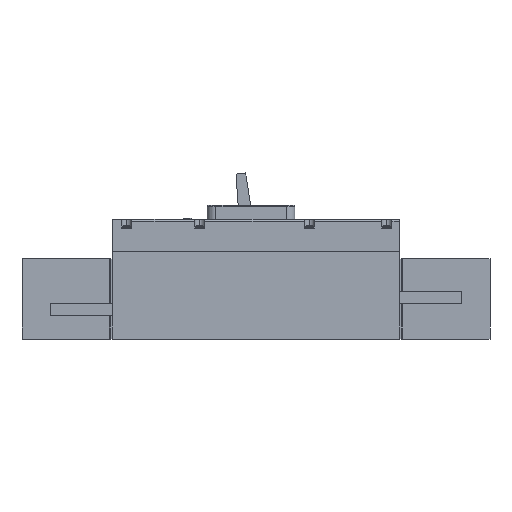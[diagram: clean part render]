
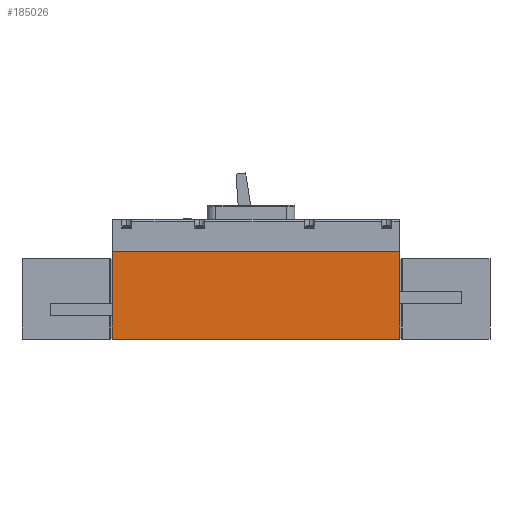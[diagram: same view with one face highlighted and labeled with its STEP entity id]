
A CAD part, left-side view. The second image highlights one B-rep face of the part: STEP entity #185026.
In plain terms, the highlighted planar face has unit normal (-1, 0, 0).
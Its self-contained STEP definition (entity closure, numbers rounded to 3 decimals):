
#178733 = PLANE('',#178734);
#178734 = AXIS2_PLACEMENT_3D('',#178735,#178736,#178737);
#178735 = CARTESIAN_POINT('',(104.5,164.5,0.));
#178736 = DIRECTION('',(0.,0.,1.));
#178737 = DIRECTION('',(1.,0.,0.));
#178786 = PLANE('',#178787);
#178787 = AXIS2_PLACEMENT_3D('',#178788,#178789,#178790);
#178788 = CARTESIAN_POINT('',(96.046,171.94,100.));
#178789 = DIRECTION('',(-0.,-0.,-1.));
#178790 = DIRECTION('',(-1.,0.,0.));
#180149 = PLANE('',#180150);
#180150 = AXIS2_PLACEMENT_3D('',#180151,#180152,#180153);
#180151 = CARTESIAN_POINT('',(0.,0.,0.));
#180152 = DIRECTION('',(0.,1.,0.));
#180153 = DIRECTION('',(1.,0.,0.));
#180239 = VERTEX_POINT('',#180240);
#180240 = CARTESIAN_POINT('',(0.,0.,100.));
#180259 = EDGE_CURVE('',#180239,#180260,#180262,.T.);
#180260 = VERTEX_POINT('',#180261);
#180261 = CARTESIAN_POINT('',(0.,329.,100.));
#180262 = SURFACE_CURVE('',#180263,(#180267,#180273),.PCURVE_S1.);
#180263 = LINE('',#180264,#180265);
#180264 = CARTESIAN_POINT('',(0.,250.47,100.));
#180265 = VECTOR('',#180266,1.);
#180266 = DIRECTION('',(0.,1.,0.));
#180267 = PCURVE('',#178786,#180268);
#180268 = DEFINITIONAL_REPRESENTATION('',(#180269),#180272);
#180269 = B_SPLINE_CURVE_WITH_KNOTS('',1,(#180270,#180271),
  .UNSPECIFIED.,.F.,.F.,(2,2),(-250.47,78.53),
  .PIECEWISE_BEZIER_KNOTS.);
#180270 = CARTESIAN_POINT('',(96.046,-171.94));
#180271 = CARTESIAN_POINT('',(96.046,157.06));
#180272 = ( GEOMETRIC_REPRESENTATION_CONTEXT(2) 
PARAMETRIC_REPRESENTATION_CONTEXT() REPRESENTATION_CONTEXT('2D SPACE',''
  ) );
#180273 = PCURVE('',#180274,#180279);
#180274 = PLANE('',#180275);
#180275 = AXIS2_PLACEMENT_3D('',#180276,#180277,#180278);
#180276 = CARTESIAN_POINT('',(0.,329.,0.));
#180277 = DIRECTION('',(1.,0.,0.));
#180278 = DIRECTION('',(0.,-1.,0.));
#180279 = DEFINITIONAL_REPRESENTATION('',(#180280),#180283);
#180280 = B_SPLINE_CURVE_WITH_KNOTS('',1,(#180281,#180282),
  .UNSPECIFIED.,.F.,.F.,(2,2),(-250.47,78.53),
  .PIECEWISE_BEZIER_KNOTS.);
#180281 = CARTESIAN_POINT('',(329.,-100.));
#180282 = CARTESIAN_POINT('',(0.,-100.));
#180283 = ( GEOMETRIC_REPRESENTATION_CONTEXT(2) 
PARAMETRIC_REPRESENTATION_CONTEXT() REPRESENTATION_CONTEXT('2D SPACE',''
  ) );
#180300 = PLANE('',#180301);
#180301 = AXIS2_PLACEMENT_3D('',#180302,#180303,#180304);
#180302 = CARTESIAN_POINT('',(209.,329.,0.));
#180303 = DIRECTION('',(0.,-1.,0.));
#180304 = DIRECTION('',(-1.,0.,0.));
#181566 = VERTEX_POINT('',#181567);
#181567 = CARTESIAN_POINT('',(0.,329.,0.));
#181588 = EDGE_CURVE('',#181566,#181589,#181591,.T.);
#181589 = VERTEX_POINT('',#181590);
#181590 = CARTESIAN_POINT('',(0.,0.,0.));
#181591 = SURFACE_CURVE('',#181592,(#181596,#181603),.PCURVE_S1.);
#181592 = LINE('',#181593,#181594);
#181593 = CARTESIAN_POINT('',(0.,329.,0.));
#181594 = VECTOR('',#181595,1.);
#181595 = DIRECTION('',(0.,-1.,0.));
#181596 = PCURVE('',#178733,#181597);
#181597 = DEFINITIONAL_REPRESENTATION('',(#181598),#181602);
#181598 = LINE('',#181599,#181600);
#181599 = CARTESIAN_POINT('',(-104.5,164.5));
#181600 = VECTOR('',#181601,1.);
#181601 = DIRECTION('',(0.,-1.));
#181602 = ( GEOMETRIC_REPRESENTATION_CONTEXT(2) 
PARAMETRIC_REPRESENTATION_CONTEXT() REPRESENTATION_CONTEXT('2D SPACE',''
  ) );
#181603 = PCURVE('',#180274,#181604);
#181604 = DEFINITIONAL_REPRESENTATION('',(#181605),#181609);
#181605 = LINE('',#181606,#181607);
#181606 = CARTESIAN_POINT('',(0.,0.));
#181607 = VECTOR('',#181608,1.);
#181608 = DIRECTION('',(1.,0.));
#181609 = ( GEOMETRIC_REPRESENTATION_CONTEXT(2) 
PARAMETRIC_REPRESENTATION_CONTEXT() REPRESENTATION_CONTEXT('2D SPACE',''
  ) );
#184805 = EDGE_CURVE('',#181566,#180260,#184806,.T.);
#184806 = SURFACE_CURVE('',#184807,(#184811,#184818),.PCURVE_S1.);
#184807 = LINE('',#184808,#184809);
#184808 = CARTESIAN_POINT('',(0.,329.,0.));
#184809 = VECTOR('',#184810,1.);
#184810 = DIRECTION('',(0.,0.,1.));
#184811 = PCURVE('',#180300,#184812);
#184812 = DEFINITIONAL_REPRESENTATION('',(#184813),#184817);
#184813 = LINE('',#184814,#184815);
#184814 = CARTESIAN_POINT('',(209.,0.));
#184815 = VECTOR('',#184816,1.);
#184816 = DIRECTION('',(0.,-1.));
#184817 = ( GEOMETRIC_REPRESENTATION_CONTEXT(2) 
PARAMETRIC_REPRESENTATION_CONTEXT() REPRESENTATION_CONTEXT('2D SPACE',''
  ) );
#184818 = PCURVE('',#180274,#184819);
#184819 = DEFINITIONAL_REPRESENTATION('',(#184820),#184824);
#184820 = LINE('',#184821,#184822);
#184821 = CARTESIAN_POINT('',(0.,0.));
#184822 = VECTOR('',#184823,1.);
#184823 = DIRECTION('',(0.,-1.));
#184824 = ( GEOMETRIC_REPRESENTATION_CONTEXT(2) 
PARAMETRIC_REPRESENTATION_CONTEXT() REPRESENTATION_CONTEXT('2D SPACE',''
  ) );
#185026 = ADVANCED_FACE('',(#185027),#180274,.F.);
#185027 = FACE_BOUND('',#185028,.F.);
#185028 = EDGE_LOOP('',(#185029,#185050,#185051,#185052));
#185029 = ORIENTED_EDGE('',*,*,#185030,.F.);
#185030 = EDGE_CURVE('',#181589,#180239,#185031,.T.);
#185031 = SURFACE_CURVE('',#185032,(#185036,#185043),.PCURVE_S1.);
#185032 = LINE('',#185033,#185034);
#185033 = CARTESIAN_POINT('',(0.,0.,0.));
#185034 = VECTOR('',#185035,1.);
#185035 = DIRECTION('',(0.,0.,1.));
#185036 = PCURVE('',#180274,#185037);
#185037 = DEFINITIONAL_REPRESENTATION('',(#185038),#185042);
#185038 = LINE('',#185039,#185040);
#185039 = CARTESIAN_POINT('',(329.,0.));
#185040 = VECTOR('',#185041,1.);
#185041 = DIRECTION('',(0.,-1.));
#185042 = ( GEOMETRIC_REPRESENTATION_CONTEXT(2) 
PARAMETRIC_REPRESENTATION_CONTEXT() REPRESENTATION_CONTEXT('2D SPACE',''
  ) );
#185043 = PCURVE('',#180149,#185044);
#185044 = DEFINITIONAL_REPRESENTATION('',(#185045),#185049);
#185045 = LINE('',#185046,#185047);
#185046 = CARTESIAN_POINT('',(0.,0.));
#185047 = VECTOR('',#185048,1.);
#185048 = DIRECTION('',(0.,-1.));
#185049 = ( GEOMETRIC_REPRESENTATION_CONTEXT(2) 
PARAMETRIC_REPRESENTATION_CONTEXT() REPRESENTATION_CONTEXT('2D SPACE',''
  ) );
#185050 = ORIENTED_EDGE('',*,*,#181588,.F.);
#185051 = ORIENTED_EDGE('',*,*,#184805,.T.);
#185052 = ORIENTED_EDGE('',*,*,#180259,.F.);
